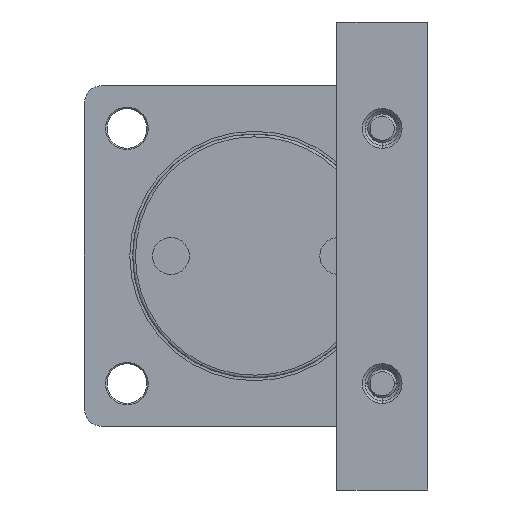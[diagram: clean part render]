
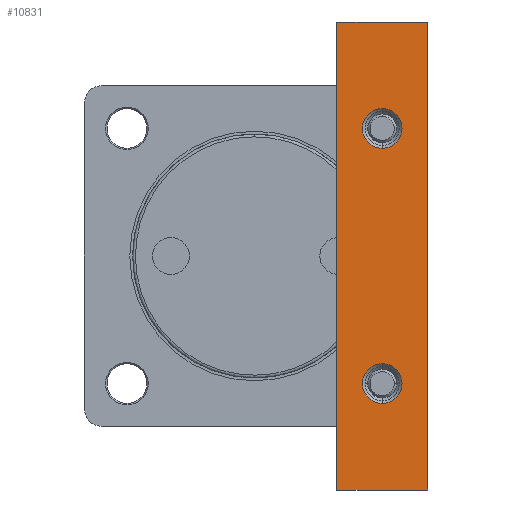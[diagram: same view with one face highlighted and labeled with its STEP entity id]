
A CAD part, left-side view. The second image highlights one B-rep face of the part: STEP entity #10831.
In plain terms, the highlighted planar face has unit normal (-1, 0, 0).
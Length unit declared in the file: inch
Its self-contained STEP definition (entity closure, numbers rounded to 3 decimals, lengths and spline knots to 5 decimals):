
#284 = EDGE_CURVE ( 'NONE', #10237, #6023, #1494, .T. ) ;
#496 = DIRECTION ( 'NONE',  ( 0., 0., 1. ) ) ;
#507 = DIRECTION ( 'NONE',  ( -1., 0., 0. ) ) ;
#527 = CARTESIAN_POINT ( 'NONE',  ( -2.1063, -1.77165, 1.77165 ) ) ;
#556 = ORIENTED_EDGE ( 'NONE', *, *, #606, .F. ) ;
#606 = EDGE_CURVE ( 'NONE', #7620, #4454, #13416, .T. ) ;
#696 = EDGE_CURVE ( 'NONE', #7997, #7756, #10174, .T. ) ;
#729 = EDGE_LOOP ( 'NONE', ( #556, #6807 ) ) ;
#858 = CARTESIAN_POINT ( 'NONE',  ( -2.1063, -2.40157, 3.24803 ) ) ;
#863 = CIRCLE ( 'NONE', #3332, 0.27559 ) ;
#874 = VECTOR ( 'NONE', #2434, 39.37008 ) ;
#1131 = CARTESIAN_POINT ( 'NONE',  ( -2.1063, -1.77165, -2.04724 ) ) ;
#1217 = DIRECTION ( 'NONE',  ( 0., -1., 0. ) ) ;
#1220 = CARTESIAN_POINT ( 'NONE',  ( -2.1063, -1.14173, -3.24803 ) ) ;
#1358 = VECTOR ( 'NONE', #1217, 39.37008 ) ;
#1494 = CIRCLE ( 'NONE', #11536, 0.27559 ) ;
#1953 = EDGE_CURVE ( 'NONE', #4454, #7620, #13272, .T. ) ;
#2434 = DIRECTION ( 'NONE',  ( 0., 0., 1. ) ) ;
#2445 = CARTESIAN_POINT ( 'NONE',  ( -2.1063, -2.40157, 3.24803 ) ) ;
#2960 = ORIENTED_EDGE ( 'NONE', *, *, #284, .F. ) ;
#3325 = CARTESIAN_POINT ( 'NONE',  ( -2.1063, -1.14173, 3.24803 ) ) ;
#3332 = AXIS2_PLACEMENT_3D ( 'NONE', #7840, #7838, #7823 ) ;
#3649 = ORIENTED_EDGE ( 'NONE', *, *, #7316, .F. ) ;
#3790 = LINE ( 'NONE', #2445, #874 ) ;
#3968 = LINE ( 'NONE', #1220, #1358 ) ;
#4082 = VERTEX_POINT ( 'NONE', #858 ) ;
#4450 = VECTOR ( 'NONE', #12443, 39.37008 ) ;
#4454 = VERTEX_POINT ( 'NONE', #13011 ) ;
#4498 = CARTESIAN_POINT ( 'NONE',  ( -2.1063, -1.77165, -1.77165 ) ) ;
#4527 = DIRECTION ( 'NONE',  ( -1., 0., 0. ) ) ;
#4529 = DIRECTION ( 'NONE',  ( 0., 0., 1. ) ) ;
#4546 = EDGE_LOOP ( 'NONE', ( #2960, #3649 ) ) ;
#5260 = VECTOR ( 'NONE', #14624, 39.37008 ) ;
#5355 = CARTESIAN_POINT ( 'NONE',  ( -2.1063, -1.14173, -3.24803 ) ) ;
#5587 = CARTESIAN_POINT ( 'NONE',  ( -2.1063, -1.77165, -1.49606 ) ) ;
#5758 = EDGE_CURVE ( 'NONE', #12547, #4082, #3790, .T. ) ;
#5793 = CARTESIAN_POINT ( 'NONE',  ( -2.1063, -1.77165, 2.04724 ) ) ;
#6002 = EDGE_CURVE ( 'NONE', #7756, #12547, #3968, .T. ) ;
#6023 = VERTEX_POINT ( 'NONE', #1131 ) ;
#6322 = ORIENTED_EDGE ( 'NONE', *, *, #5758, .T. ) ;
#6807 = ORIENTED_EDGE ( 'NONE', *, *, #1953, .F. ) ;
#7034 = EDGE_CURVE ( 'NONE', #4082, #7997, #14029, .T. ) ;
#7316 = EDGE_CURVE ( 'NONE', #6023, #10237, #863, .T. ) ;
#7475 = AXIS2_PLACEMENT_3D ( 'NONE', #527, #507, #496 ) ;
#7620 = VERTEX_POINT ( 'NONE', #5793 ) ;
#7756 = VERTEX_POINT ( 'NONE', #5355 ) ;
#7823 = DIRECTION ( 'NONE',  ( 0., 0., 1. ) ) ;
#7838 = DIRECTION ( 'NONE',  ( -1., 0., 0. ) ) ;
#7840 = CARTESIAN_POINT ( 'NONE',  ( -2.1063, -1.77165, -1.77165 ) ) ;
#7997 = VERTEX_POINT ( 'NONE', #3325 ) ;
#8184 = AXIS2_PLACEMENT_3D ( 'NONE', #9721, #10873, #10821 ) ;
#8191 = CARTESIAN_POINT ( 'NONE',  ( -2.1063, -2.40157, -3.24803 ) ) ;
#8664 = ORIENTED_EDGE ( 'NONE', *, *, #6002, .T. ) ;
#9006 = CARTESIAN_POINT ( 'NONE',  ( -2.1063, -1.77165, 1.77165 ) ) ;
#9341 = EDGE_LOOP ( 'NONE', ( #9741, #8664, #6322, #12660 ) ) ;
#9721 = CARTESIAN_POINT ( 'NONE',  ( -2.1063, -2.40157, 3.24803 ) ) ;
#9741 = ORIENTED_EDGE ( 'NONE', *, *, #696, .T. ) ;
#10174 = LINE ( 'NONE', #11044, #4450 ) ;
#10237 = VERTEX_POINT ( 'NONE', #5587 ) ;
#10804 = AXIS2_PLACEMENT_3D ( 'NONE', #9006, #12677, #12674 ) ;
#10821 = DIRECTION ( 'NONE',  ( 0., 0., -1. ) ) ;
#10831 = ADVANCED_FACE ( 'NONE', ( #11374, #11816, #11788 ), #10972, .F. ) ;
#10873 = DIRECTION ( 'NONE',  ( 1., 0., 0. ) ) ;
#10972 = PLANE ( 'NONE',  #8184 ) ;
#11044 = CARTESIAN_POINT ( 'NONE',  ( -2.1063, -1.14173, 3.24803 ) ) ;
#11374 = FACE_OUTER_BOUND ( 'NONE', #9341, .T. ) ;
#11536 = AXIS2_PLACEMENT_3D ( 'NONE', #4498, #4527, #4529 ) ;
#11788 = FACE_BOUND ( 'NONE', #4546, .T. ) ;
#11816 = FACE_BOUND ( 'NONE', #729, .T. ) ;
#12443 = DIRECTION ( 'NONE',  ( 0., 0., -1. ) ) ;
#12547 = VERTEX_POINT ( 'NONE', #8191 ) ;
#12660 = ORIENTED_EDGE ( 'NONE', *, *, #7034, .T. ) ;
#12674 = DIRECTION ( 'NONE',  ( 0., 0., 1. ) ) ;
#12677 = DIRECTION ( 'NONE',  ( -1., 0., 0. ) ) ;
#13011 = CARTESIAN_POINT ( 'NONE',  ( -2.1063, -1.77165, 1.49606 ) ) ;
#13272 = CIRCLE ( 'NONE', #7475, 0.27559 ) ;
#13416 = CIRCLE ( 'NONE', #10804, 0.27559 ) ;
#14029 = LINE ( 'NONE', #14645, #5260 ) ;
#14624 = DIRECTION ( 'NONE',  ( 0., 1., 0. ) ) ;
#14645 = CARTESIAN_POINT ( 'NONE',  ( -2.1063, -1.14173, 3.24803 ) ) ;
